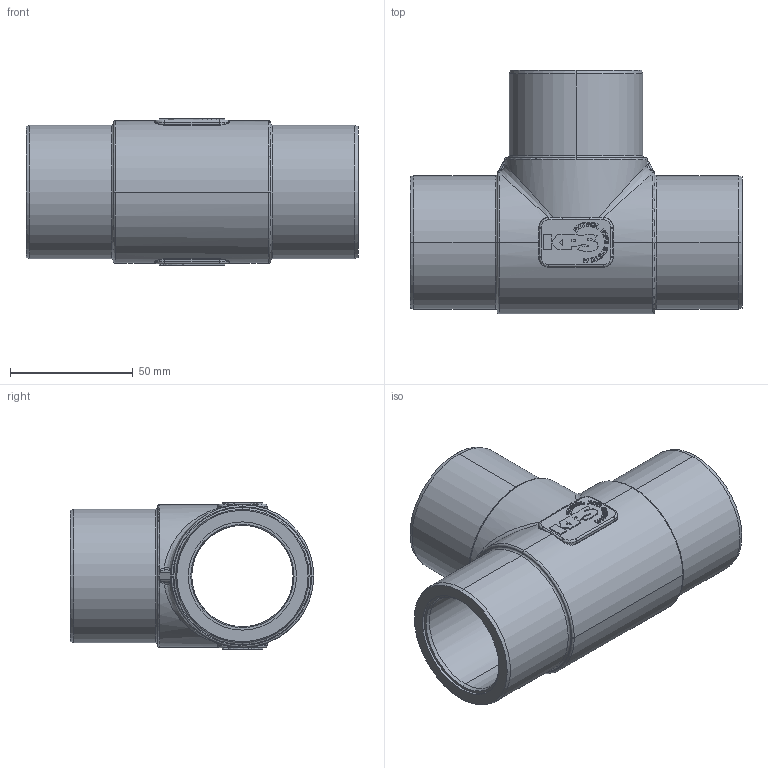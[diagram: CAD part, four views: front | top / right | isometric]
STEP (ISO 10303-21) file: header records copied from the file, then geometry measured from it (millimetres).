
FILE_DESCRIPTION (( 'STEP AP214' ), '1' );
FILE_NAME ('KP_8-54FC02.STEP', '2012-12-14T10:01:48', ( '' ), ( '' ), 'SwSTEP 2.0', 'SolidWorks 2012', '' );
FILE_SCHEMA (( 'AUTOMOTIVE_DESIGN' ));
Length unit declared in the file: millimetre
Products named in the file (1): KP_8-54FC02
Bounding box: 135 x 99 x 59.5 mm (x, y, z)
Volume: 191240.7 mm3; surface area: 56059.5 mm2
Topology: 1 solids, 1 shells, 619 faces, 1567 edges, 1007 vertices
Faces by surface type: plane 366, bspline 150, cylinder 58, torus 27, cone 18
Entity records: 22055 total; most frequent: CARTESIAN_POINT 7933, ORIENTED_EDGE 3134, DIRECTION 2425, EDGE_CURVE 1567, VECTOR 1031, LINE 1031, VERTEX_POINT 1007, AXIS2_PLACEMENT_3D 697
